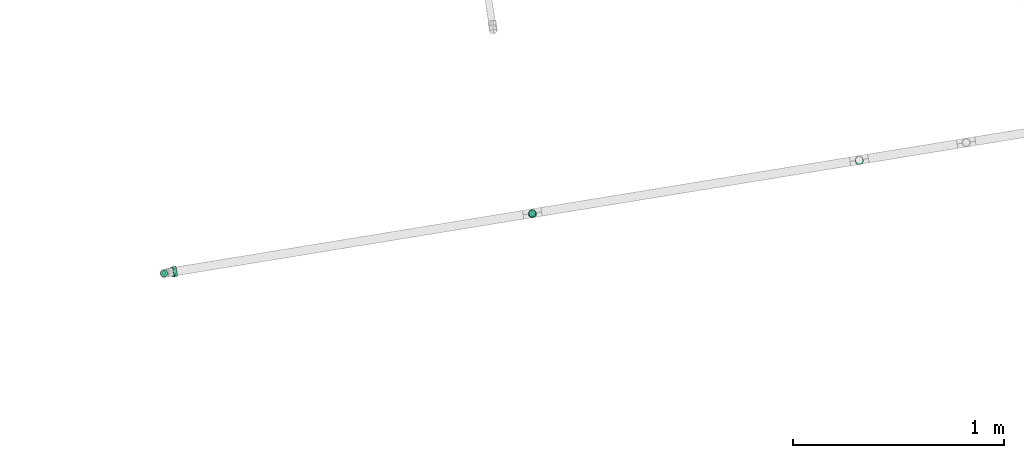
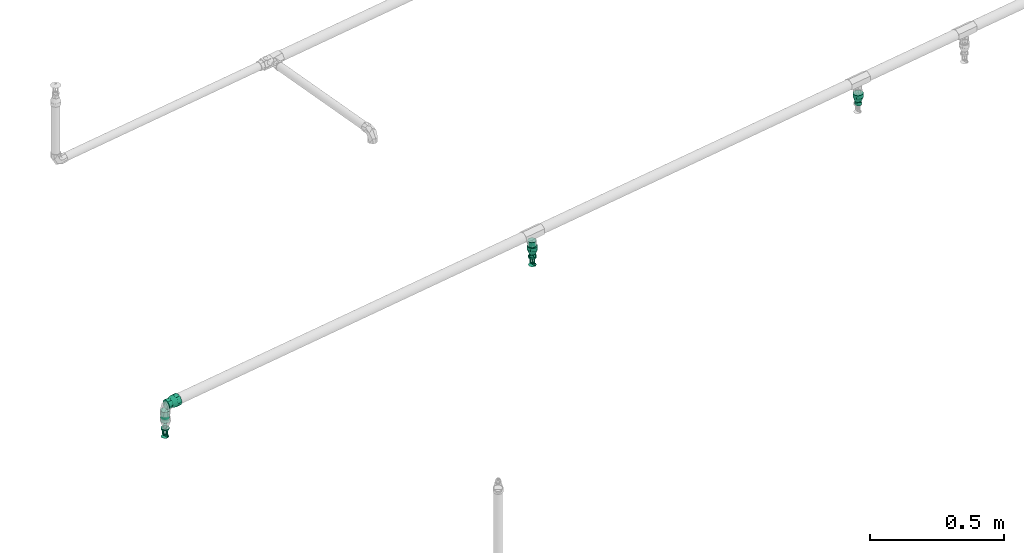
# One storey, part 28 of 46: 3 flow fittings, 2 flow segments, 2 flow terminals.
"""IFC2X3 building model written with IfcOpenShell, lengths in millimetres."""

from ifc_helpers import new_model, entity, si_unit, converted_unit, derived_unit, direction, frame, origin, origin_with_axes, origin_2d_with_axis, place, context, subcontext, project, spatial, circle, extrude, faceted_brep, source, transform, mapped, material, type_object, element, save


model = new_model("IFC2X3")

# Units and contexts
model_context = context("Model", 3, precision=0.01, world=origin(), true_north=direction((6.12323399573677e-17, 1.0)))
plan_context = context("Plan", 3, precision=1e-05, world=origin_with_axes())
body_context = subcontext(model_context, "Body", "Model", "MODEL_VIEW")
ifc_project = project(units=[converted_unit("PLANEANGLEUNIT", "DEGREE", entity("IfcPositiveLengthMeasure", 0.0174532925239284), si_unit("PLANEANGLEUNIT", "RADIAN"), dimensions=[0, 0, 0, 0, 0, 0, 0]), si_unit("AREAUNIT", "SQUARE_METRE"), si_unit("LENGTHUNIT", "METRE", prefix="MILLI"), si_unit("MASSUNIT", "GRAM", prefix="KILO"), si_unit("POWERUNIT", "WATT"), si_unit("PRESSUREUNIT", "PASCAL", prefix="KILO"), si_unit("FORCEUNIT", "NEWTON", prefix="KILO"), si_unit("ELECTRICVOLTAGEUNIT", "VOLT"), si_unit("ELECTRICCURRENTUNIT", "AMPERE"), si_unit("THERMODYNAMICTEMPERATUREUNIT", "DEGREE_CELSIUS"), si_unit("TIMEUNIT", "SECOND"), si_unit("VOLUMEUNIT", "CUBIC_METRE"), derived_unit("LINEARVELOCITYUNIT", [(si_unit("LENGTHUNIT", "METRE"), 1), (si_unit("TIMEUNIT", "SECOND"), -1)]), derived_unit("VOLUMETRICFLOWRATEUNIT", [(si_unit("VOLUMEUNIT", "CUBIC_METRE"), 1), (si_unit("TIMEUNIT", "SECOND"), -1)]), derived_unit("THERMALTRANSMITTANCEUNIT", [(si_unit("POWERUNIT", "WATT"), 1), (si_unit("THERMODYNAMICTEMPERATUREUNIT", "KELVIN"), -1), (si_unit("AREAUNIT", "SQUARE_METRE"), -1)]), derived_unit("SOUNDPRESSUREUNIT", [(si_unit("PRESSUREUNIT", "PASCAL"), 1)])], contexts=[model_context, plan_context])

# Site, building, storey
site_placement = place(None, frame((-3.09682673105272e-06, 1.93776733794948e-05, 0.0), z_axis=(0.0, 0.0, 1.0), x_axis=(-0.160806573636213, 0.986985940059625, 0.0)))
site = spatial("IfcSite", under=ifc_project, at=site_placement, Name="Default", CompositionType="ELEMENT")
building_placement = place(site_placement, frame((0.0, 0.0, 0.0), z_axis=(0.0, 0.0, 1.0), x_axis=(1.0, -2.77555756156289e-17, 0.0)))
building = spatial("IfcBuilding", under=site, at=building_placement, Name="Bygning (endres i Project Information)", CompositionType="ELEMENT")
storey_placement = place(building_placement, frame((0.0, 0.0, 51360.0000000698), z_axis=(0.0, 0.0, 1.0), x_axis=(1.0, -2.77555756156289e-17, 0.0)))
storey = spatial("IfcBuildingStorey", under=building, at=storey_placement, Name="H01-Nivå D+0,36", CompositionType="ELEMENT", Elevation=51360.0000000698)

# Flow fittings
ifc_material = material(Name="3320.001")
pipe_fitting_type_1 = type_object("IfcPipeFittingType", Name="RS_53_PIF_UN_Reducing-Socket-EN10241_MC_gen:RS_53_PIF_UN_Reducing-Socket-EN10241_MC_gen", PredefinedType="NOTDEFINED", material=ifc_material)
shared_shape_1 = source(origin(), body_context, "Body", "Brep", [
    faceted_brep([(0.0, 5.11167614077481, 19.0770350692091), (0.0, 9.87500000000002, 17.1040017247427), (0.0, 13.9653589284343, 13.9653589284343), (0.0, 17.1040017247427, 9.87499999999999), (0.0, 19.0770350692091, 5.11167614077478), (0.0, 19.75, 0.0), (0.0, 19.0770350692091, -5.1116761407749), (0.0, 17.1040017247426, -9.8750000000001), (0.0, 13.9653589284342, -13.9653589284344), (0.0, 9.87499999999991, -17.1040017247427), (0.0, 5.11167614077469, -19.0770350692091), (0.0, 0.0, -19.75), (0.0, -5.11167614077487, -19.0770350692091), (0.0, -9.87500000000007, -17.1040017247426), (0.0, -13.9653589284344, -13.9653589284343), (0.0, -17.1040017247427, -9.87499999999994), (0.0, -19.0770350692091, -5.11167614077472), (0.0, -19.75, 0.0), (0.0, -19.0770350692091, 5.11167614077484), (0.0, -17.1040017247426, 9.87500000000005), (0.0, -13.9653589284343, 13.9653589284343), (0.0, -9.87499999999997, 17.1040017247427), (0.0, -5.11167614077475, 19.0770350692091), (0.0, 0.0, 19.75), (17.0, -6.65118285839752, -18.277344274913), (17.0, -15.1289479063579, -12.6955675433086), (17.0, -16.8438814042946, -9.72538978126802), (17.0, -18.5588149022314, -6.7552120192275), (17.0, -9.87413131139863, -17.1045032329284), (17.0, -12.5015396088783, -14.9000353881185), (17.0, -19.1544074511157, -3.37760600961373), (17.0, -3.42823440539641, -19.4501853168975), (17.0, 3.43119786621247, -19.4496627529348), (17.0, 0.0014817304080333, -19.4499240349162), (17.0, -19.75, 0.0), (17.0, 6.65396758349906, -18.2763306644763), (17.0, 9.87673730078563, -17.1029985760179), (17.0, 18.5598439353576, -6.75238425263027), (17.0, 16.8453630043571, -9.7228232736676), (17.0, 15.1308820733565, -12.6932622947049), (17.0, 12.5038096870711, -14.8981304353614), (17.0, 19.75, 0.0), (17.0, 15.1308820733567, 12.6932622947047), (17.0, 16.8453630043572, 9.72282327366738), (17.0, 18.5598439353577, 6.75238425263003), (17.0, 9.87673730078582, 17.1029985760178), (17.0, 12.5038096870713, 14.8981304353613), (17.0, 3.43119786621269, 19.4496627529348), (17.0, 6.65396758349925, 18.2763306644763), (17.0, -3.4282344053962, 19.4501853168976), (17.0, 0.00148173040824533, 19.4499240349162), (17.0, -15.1289479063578, 12.6955675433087), (17.0, -6.65118285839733, 18.277344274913), (17.0, -9.87413131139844, 17.1045032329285), (17.0, -12.5015396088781, 14.9000353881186), (17.0, -19.1544074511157, 3.37760600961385), (17.0, -18.5588149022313, 6.75521201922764), (17.0, -16.8438814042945, 9.72538978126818), (34.0, 13.5000000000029, 0.0), (34.0, 12.6868795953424, -4.61444320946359), (34.0, -4.54589529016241, -12.4935366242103), (34.0, -2.34276817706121, -13.2951659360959), (34.0, 6.75195505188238, -11.6902139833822), (34.0, 0.00166747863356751, -13.2948718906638), (34.0, 2.34610313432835, -13.2945778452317), (34.0, 10.3432928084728, -8.67561489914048), (34.0, 8.54762393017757, -10.1829144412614), (34.0, 4.54902909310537, -12.492395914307), (34.0, 11.5150862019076, -6.64502905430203), (34.0, -6.74902240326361, -11.6919073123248), (34.0, -13.4999999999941, 0.0), (34.0, -13.0928608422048, -2.30881275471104), (34.0, -10.3411162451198, -8.6782091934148), (34.0, -8.54506932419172, -10.1850582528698), (34.0, -12.6857216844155, -4.61762550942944), (34.0, -11.5134189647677, -6.64791735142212), (34.0, -13.0928608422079, 2.30881275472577), (34.0, -12.6857216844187, 4.6176255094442), (34.0, 2.34610313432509, 13.2945778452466), (34.0, 4.54902909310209, 12.4923959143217), (34.0, -10.3411162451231, 8.67820919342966), (34.0, 0.00166747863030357, 13.2948718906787), (34.0, -6.74902240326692, 11.6919073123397), (34.0, -8.54506932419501, 10.1850582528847), (34.0, -11.5134189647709, 6.64791735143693), (34.0, -2.34276817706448, 13.2951659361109), (34.0, -4.5458952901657, 12.4935366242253), (34.0, 12.6868795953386, 4.61444320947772), (34.0, 11.5150862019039, 6.64502905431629), (34.0, 10.3432928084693, 8.67561489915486), (34.0, 6.7519550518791, 11.6902139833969), (34.0, 8.54762393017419, 10.1829144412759), (51.0, 3.49405710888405, -13.0399986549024), (51.0, 6.75000000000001, -11.6913429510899), (51.0, 9.5459415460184, -9.54594154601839), (51.0, 11.6913429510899, -6.74999999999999), (51.0, 13.0399986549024, -3.49405710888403), (51.0, 13.5, 0.0), (51.0, 13.0399986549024, 3.49405710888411), (51.0, 11.6913429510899, 6.75000000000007), (51.0, 9.54594154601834, 9.54594154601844), (51.0, 6.74999999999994, 11.69134295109), (51.0, 3.49405710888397, 13.0399986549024), (51.0, 0.0, 13.5), (51.0, -3.49405710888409, 13.0399986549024), (51.0, -6.75000000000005, 11.6913429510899), (51.0, -9.54594154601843, 9.54594154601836), (51.0, -11.6913429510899, 6.74999999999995), (51.0, -13.0399986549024, 3.49405710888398), (51.0, -13.5, 0.0), (51.0, -13.0399986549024, -3.49405710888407), (51.0, -11.6913429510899, -6.75000000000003), (51.0, -9.54594154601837, -9.54594154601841), (51.0, -6.74999999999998, -11.6913429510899), (51.0, -3.49405710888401, -13.0399986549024), (51.0, 0.0, -13.5)], [[[0, 1, 2, 3, 4, 5, 6, 7, 8, 9, 10, 11, 12, 13, 14, 15, 16, 17, 18, 19, 20, 21, 22, 23]], [[24, 13, 12]], [[15, 14, 25]], [[15, 25, 26, 27]], [[28, 29, 13]], [[16, 27, 30]], [[30, 17, 16]], [[15, 27, 16]], [[12, 31, 24]], [[25, 14, 29]], [[11, 32, 33, 31]], [[24, 28, 13]], [[13, 29, 14]], [[30, 34, 17]], [[32, 11, 10]], [[35, 9, 36]], [[7, 37, 38, 39]], [[9, 35, 10]], [[7, 6, 37]], [[8, 39, 40]], [[32, 10, 35]], [[7, 39, 8]], [[40, 36, 9]], [[6, 41, 37]], [[6, 5, 41]], [[11, 31, 12]], [[40, 9, 8]], [[41, 5, 4]], [[3, 2, 42]], [[3, 42, 43, 44]], [[45, 46, 1]], [[44, 41, 4]], [[0, 47, 48]], [[42, 2, 46]], [[23, 49, 50, 47]], [[1, 46, 2]], [[49, 23, 22]], [[19, 51, 20]], [[52, 21, 53]], [[3, 44, 4]], [[48, 45, 1]], [[54, 53, 21]], [[17, 34, 55]], [[21, 52, 22]], [[20, 51, 54]], [[49, 22, 52]], [[48, 1, 0]], [[17, 55, 18]], [[56, 19, 18]], [[18, 55, 56]], [[54, 21, 20]], [[57, 51, 19, 56]], [[23, 47, 0]], [[41, 58, 59]], [[60, 31, 61]], [[40, 62, 36]], [[63, 32, 64]], [[65, 39, 38]], [[64, 32, 35]], [[61, 33, 63]], [[37, 41, 59]], [[62, 40, 66]], [[40, 39, 66]], [[35, 36, 67]], [[65, 38, 68]], [[37, 68, 38]], [[64, 35, 67]], [[61, 31, 33]], [[69, 28, 24]], [[69, 24, 60]], [[70, 30, 71]], [[72, 29, 73]], [[30, 70, 34]], [[74, 27, 26]], [[68, 37, 59]], [[72, 25, 29]], [[27, 74, 71]], [[31, 60, 24]], [[29, 28, 73]], [[75, 26, 25]], [[67, 36, 62]], [[66, 39, 65]], [[27, 71, 30]], [[74, 26, 75]], [[73, 28, 69]], [[63, 33, 32]], [[75, 25, 72]], [[56, 76, 77]], [[48, 78, 79]], [[54, 51, 80]], [[81, 47, 50]], [[57, 56, 77]], [[52, 53, 82]], [[82, 53, 83]], [[55, 70, 76]], [[70, 55, 34]], [[84, 51, 57]], [[50, 85, 81]], [[56, 55, 76]], [[86, 49, 52]], [[83, 53, 54]], [[81, 78, 47]], [[48, 47, 78]], [[80, 51, 84]], [[49, 85, 50]], [[87, 44, 88]], [[87, 58, 41]], [[43, 42, 89]], [[57, 77, 84]], [[46, 45, 90]], [[85, 49, 86]], [[88, 44, 43]], [[54, 80, 83]], [[91, 42, 46]], [[52, 82, 86]], [[89, 42, 91]], [[87, 41, 44]], [[90, 45, 79]], [[46, 90, 91]], [[79, 45, 48]], [[43, 89, 88]], [[92, 93, 94, 95, 96, 97, 98, 99, 100, 101, 102, 103, 104, 105, 106, 107, 108, 109, 110, 111, 112, 113, 114, 115]], [[58, 97, 96]], [[95, 94, 65]], [[95, 65, 68, 59]], [[62, 66, 93]], [[59, 58, 96]], [[92, 64, 67]], [[65, 94, 66]], [[115, 61, 63, 64]], [[93, 66, 94]], [[67, 93, 92]], [[67, 62, 93]], [[95, 59, 96]], [[114, 61, 115]], [[111, 110, 74]], [[73, 113, 112]], [[109, 71, 110]], [[111, 74, 75, 72]], [[109, 70, 71]], [[60, 61, 114]], [[113, 69, 60]], [[111, 72, 112]], [[113, 60, 114]], [[112, 72, 73]], [[115, 64, 92]], [[71, 74, 110]], [[73, 69, 113]], [[86, 105, 104]], [[107, 106, 80]], [[107, 80, 84, 77]], [[82, 83, 105]], [[108, 77, 76]], [[76, 70, 109]], [[76, 109, 108]], [[104, 85, 86]], [[80, 106, 83]], [[103, 78, 81, 85]], [[91, 101, 100]], [[105, 83, 106]], [[86, 82, 105]], [[78, 103, 102]], [[79, 101, 90]], [[99, 87, 88, 89]], [[101, 79, 102]], [[99, 98, 87]], [[100, 89, 91]], [[78, 102, 79]], [[103, 85, 104]], [[99, 89, 100]], [[98, 58, 87]], [[107, 77, 108]], [[98, 97, 58]], [[91, 90, 101]]]),
])
for number, where, z_axis, x_axis in (
    (1, (1002297.38520526, -344152.032953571, 3404.0), (2.77555756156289e-17, 1.0, 0.0), (0.0, 0.0, -1.0)),
    (2, (1002297.38520526, -345724.575122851, 3404.0), (2.77555756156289e-17, 1.0, 0.0), (0.0, 0.0, -1.0)),
):
    element("IfcFlowFitting", number, at=place(storey_placement, frame(where, z_axis=z_axis, x_axis=x_axis)), inside=storey, type_object=pipe_fitting_type_1, material=ifc_material, Name="RS_53_PIF_UN_Reducing-Socket-EN10241_MC_gen:RS_53_PIF_UN_Reducing-Socket-EN10241_MC_gen", ObjectType="RS_53_PIF_UN_Reducing-Socket-EN10241_MC_gen:RS_53_PIF_UN_Reducing-Socket-EN10241_MC_gen", context=body_context, shape_type="MappedRepresentation", body=[
        mapped(shared_shape_1, transform((0.0, 0.0, 0.0), scale=1.0)),
    ])
pipe_fitting_type_2 = type_object("IfcPipeFittingType", Name="RS_53_PIF_UN_Reducing-Socket-EN10241_MC_gen:RS_53_PIF_UN_Reducing-Socket-EN10241_MC_gen", PredefinedType="NOTDEFINED", material=ifc_material)
shared_shape_2 = source(origin(), body_context, "Body", "Brep", [
    faceted_brep([(0.0, 5.11167614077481, 19.0770350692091), (0.0, 9.87500000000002, 17.1040017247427), (0.0, 13.9653589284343, 13.9653589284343), (0.0, 17.1040017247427, 9.87499999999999), (0.0, 19.0770350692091, 5.11167614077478), (0.0, 19.75, 0.0), (0.0, 19.0770350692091, -5.1116761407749), (0.0, 17.1040017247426, -9.8750000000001), (0.0, 13.9653589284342, -13.9653589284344), (0.0, 9.87499999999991, -17.1040017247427), (0.0, 5.11167614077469, -19.0770350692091), (0.0, 0.0, -19.75), (0.0, -5.11167614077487, -19.0770350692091), (0.0, -9.87500000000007, -17.1040017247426), (0.0, -13.9653589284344, -13.9653589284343), (0.0, -17.1040017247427, -9.87499999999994), (0.0, -19.0770350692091, -5.11167614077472), (0.0, -19.75, 0.0), (0.0, -19.0770350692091, 5.11167614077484), (0.0, -17.1040017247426, 9.87500000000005), (0.0, -13.9653589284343, 13.9653589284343), (0.0, -9.87499999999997, 17.1040017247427), (0.0, -5.11167614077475, 19.0770350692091), (0.0, 0.0, 19.75), (18.6666666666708, -6.65147917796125, -18.2772448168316), (18.6666666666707, -15.1290644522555, -12.6954286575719), (18.6666666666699, -16.8439551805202, -9.72527774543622), (18.6666666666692, -18.5588459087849, -6.75512683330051), (18.6666666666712, -9.87436684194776, -17.1043672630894), (18.6666666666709, -12.5017156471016, -14.8998979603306), (18.6666666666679, -19.1544229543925, -3.37756341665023), (18.6666666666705, -3.42859151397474, -19.4501223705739), (18.6666666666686, 3.43075149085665, -19.4497414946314), (18.6666666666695, 0.00107998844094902, -19.4499319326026), (18.6666666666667, -19.75, 0.0), (18.6666666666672, 6.65350888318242, -18.2765060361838), (18.6666666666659, 9.87626627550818, -17.1032705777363), (18.6666666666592, 18.5595959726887, -6.75306577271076), (18.6666666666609, 16.8450350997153, -9.72340711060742), (18.6666666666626, 15.1304742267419, -12.6937484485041), (18.6666666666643, 12.503370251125, -14.8985095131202), (18.6666666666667, 19.75, 0.0), (18.6666666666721, 15.1304742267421, 12.6937484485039), (18.6666666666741, 16.8450350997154, 9.72340711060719), (18.6666666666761, 18.5595959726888, 6.7530657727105), (18.6666666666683, 9.8762662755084, 17.1032705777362), (18.6666666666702, 12.5033702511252, 14.89850951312), (18.6666666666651, 3.43075149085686, 19.4497414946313), (18.6666666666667, 6.65350888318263, 18.2765060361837), (18.6666666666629, -3.42859151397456, 19.450122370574), (18.666666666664, 0.00107998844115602, 19.4499319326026), (18.6666666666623, -12.5017156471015, 14.8998979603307), (18.6666666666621, -9.87436684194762, 17.1043672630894), (18.6666666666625, -6.65147917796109, 18.2772448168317), (18.6666666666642, -18.5588459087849, 6.75512683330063), (18.6666666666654, -19.1544229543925, 3.37756341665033), (18.6666666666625, -15.1290644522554, 12.695428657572), (18.6666666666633, -16.8439551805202, 9.72527774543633), (37.3333333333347, -23.7125607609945, -4.46565710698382), (37.3333333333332, 4.25560674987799, -24.127573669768), (37.3333333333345, 0.00110376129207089, -24.1277682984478), (37.3333333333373, -15.5085607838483, -18.483337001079), (37.3333333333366, -20.8950763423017, -12.0642027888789), (37.3333333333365, -8.25137606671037, -22.6729794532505), (37.3333333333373, -12.2493529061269, -21.2179959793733), (37.3333333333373, -18.7677686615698, -15.7486780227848), (37.3333333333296, 12.2512941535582, -21.2168751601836), (37.3333333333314, 8.2534504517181, -22.6722244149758), (37.3333333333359, -23.0223840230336, -8.37972755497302), (37.3333333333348, -23.7611920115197, -4.18986377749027), (37.3333333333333, -24.4999999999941, 0.0), (37.3333333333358, -4.25339922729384, -24.1279629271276), (37.3333333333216, 23.0231506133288, -8.37762113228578), (37.3333333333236, 20.8961800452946, -12.0622909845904), (37.3333333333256, 18.7692094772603, -15.7469608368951), (37.3333333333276, 15.5102518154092, -18.4819179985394), (37.3333333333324, 24.5000000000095, 0.0), (37.3333333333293, -18.767768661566, 15.7486780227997), (37.3333333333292, -15.5085607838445, 18.4833370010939), (37.3333333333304, -4.25339922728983, 24.1279629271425), (37.3333333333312, -23.0223840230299, 8.37972755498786), (37.3333333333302, -20.8950763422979, 12.0642027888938), (37.3333333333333, 4.2556067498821, 24.1275736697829), (37.3333333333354, 8.25345045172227, 22.6722244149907), (37.3333333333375, 12.2512941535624, 21.2168751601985), (37.3333333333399, 15.5102518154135, 18.4819179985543), (37.3333333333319, -23.7611920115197, 4.18986377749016), (37.3333333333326, -23.7125607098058, 4.46565739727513), (37.3333333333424, 18.7692094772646, 15.74696083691), (37.3333333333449, 20.896180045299, 12.0622909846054), (37.3333333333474, 23.0231506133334, 8.37762113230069), (37.3333333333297, -8.25137606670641, 22.6729794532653), (37.333333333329, -12.249352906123, 21.2179959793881), (37.3333333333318, 0.00110376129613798, 24.1277682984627), (56.0, 0.0, -24.5), (56.0, 6.34106660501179, -23.6651827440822), (56.0, 12.25, -21.2176223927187), (56.0, 17.3241161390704, -17.3241161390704), (56.0, 21.2176223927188, -12.25), (56.0, 23.6651827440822, -6.34106660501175), (56.0, 24.5, 0.0), (56.0, 23.6651827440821, 6.34106660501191), (56.0, 21.2176223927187, 12.2500000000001), (56.0, 17.3241161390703, 17.3241161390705), (56.0, 12.2499999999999, 21.2176223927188), (56.0, 6.34106660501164, 23.6651827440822), (56.0, 0.0, 24.5), (56.0, -6.34106660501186, 23.6651827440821), (56.0, -12.2500000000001, 21.2176223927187), (56.0, -17.3241161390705, 17.3241161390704), (56.0, -21.2176223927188, 12.2499999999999), (56.0, -23.6651827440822, 6.34106660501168), (56.0, -24.5, 0.0), (56.0, -23.6651827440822, -6.34106660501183), (56.0, -21.2176223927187, -12.2500000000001), (56.0, -17.3241161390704, -17.3241161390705), (56.0, -12.25, -21.2176223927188), (56.0, -6.34106660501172, -23.6651827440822)], [[[0, 1, 2, 3, 4, 5, 6, 7, 8, 9, 10, 11, 12, 13, 14, 15, 16, 17, 18, 19, 20, 21, 22, 23]], [[24, 13, 12]], [[15, 14, 25]], [[15, 25, 26, 27]], [[28, 29, 13]], [[16, 27, 30]], [[30, 17, 16]], [[15, 27, 16]], [[12, 31, 24]], [[25, 14, 29]], [[11, 32, 33, 31]], [[24, 28, 13]], [[13, 29, 14]], [[30, 34, 17]], [[32, 11, 10]], [[35, 9, 36]], [[7, 37, 38, 39]], [[9, 35, 10]], [[7, 6, 37]], [[8, 39, 40]], [[32, 10, 35]], [[7, 39, 8]], [[40, 36, 9]], [[6, 41, 37]], [[6, 5, 41]], [[11, 31, 12]], [[40, 9, 8]], [[41, 5, 4]], [[3, 2, 42]], [[3, 42, 43, 44]], [[45, 46, 1]], [[44, 41, 4]], [[0, 47, 48]], [[42, 2, 46]], [[23, 49, 50, 47]], [[1, 46, 2]], [[23, 22, 49]], [[51, 52, 21]], [[48, 1, 0]], [[21, 52, 53]], [[19, 18, 54]], [[21, 53, 22]], [[23, 47, 0]], [[3, 44, 4]], [[55, 17, 34]], [[53, 49, 22]], [[19, 56, 20]], [[20, 56, 51]], [[51, 21, 20]], [[19, 54, 57, 56]], [[17, 55, 18]], [[48, 45, 1]], [[55, 54, 18]], [[27, 58, 30]], [[33, 59, 60]], [[61, 25, 29]], [[62, 27, 26]], [[28, 63, 64]], [[25, 61, 65]], [[35, 66, 67]], [[27, 62, 68]], [[36, 66, 35]], [[30, 58, 69, 70]], [[26, 65, 62]], [[29, 64, 61]], [[29, 28, 64]], [[26, 25, 65]], [[24, 71, 63]], [[60, 71, 31]], [[59, 33, 32]], [[67, 59, 32]], [[37, 72, 38]], [[73, 74, 39]], [[75, 36, 40]], [[75, 66, 36]], [[76, 37, 41]], [[27, 68, 58]], [[38, 72, 73]], [[63, 28, 24]], [[40, 74, 75]], [[76, 72, 37]], [[30, 70, 34]], [[67, 32, 35]], [[24, 31, 71]], [[73, 39, 38]], [[60, 31, 33]], [[39, 74, 40]], [[41, 44, 76]], [[56, 77, 78]], [[79, 49, 53]], [[54, 80, 81]], [[47, 82, 83]], [[45, 84, 85]], [[55, 70, 86, 87]], [[42, 88, 89]], [[87, 54, 55]], [[76, 44, 90]], [[43, 89, 90]], [[85, 88, 46]], [[52, 91, 53]], [[77, 57, 81]], [[48, 83, 84]], [[92, 51, 78]], [[49, 79, 93]], [[92, 91, 52]], [[48, 84, 45]], [[57, 54, 81]], [[50, 82, 47]], [[51, 56, 78]], [[70, 55, 34]], [[45, 85, 46]], [[53, 91, 79]], [[42, 89, 43]], [[57, 77, 56]], [[54, 87, 80]], [[47, 83, 48]], [[92, 52, 51]], [[49, 93, 50]], [[43, 90, 44]], [[50, 93, 82]], [[46, 88, 42]], [[94, 95, 96, 97, 98, 99, 100, 101, 102, 103, 104, 105, 106, 107, 108, 109, 110, 111, 112, 113, 114, 115, 116, 117]], [[76, 100, 99]], [[98, 97, 74]], [[98, 74, 73, 72]], [[66, 75, 96]], [[72, 76, 99]], [[95, 59, 67]], [[74, 97, 75]], [[94, 71, 60, 59]], [[96, 75, 97]], [[71, 94, 117]], [[94, 59, 95]], [[112, 69, 113]], [[63, 116, 64]], [[67, 96, 95]], [[61, 116, 115]], [[70, 69, 112]], [[98, 72, 99]], [[116, 63, 117]], [[115, 65, 61]], [[71, 117, 63]], [[67, 66, 96]], [[114, 65, 115]], [[68, 114, 113]], [[113, 69, 58, 68]], [[61, 64, 116]], [[62, 65, 114, 68]], [[91, 108, 107]], [[110, 109, 77]], [[110, 77, 81, 80]], [[92, 78, 108]], [[111, 80, 87, 86]], [[86, 112, 111]], [[110, 80, 111]], [[107, 79, 91]], [[77, 109, 78]], [[106, 82, 93, 79]], [[91, 92, 108]], [[108, 78, 109]], [[86, 70, 112]], [[82, 106, 105]], [[83, 104, 84]], [[102, 90, 89, 88]], [[104, 83, 105]], [[102, 101, 90]], [[103, 88, 85]], [[82, 105, 83]], [[102, 88, 103]], [[85, 84, 104]], [[101, 76, 90]], [[101, 100, 76]], [[106, 79, 107]], [[85, 104, 103]]]),
])
flow_fitting_placement = place(storey_placement, frame((1002299.88520526, -342386.296251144, 3458.79749047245), z_axis=(4.03772584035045e-23, 1.45474404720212e-06, 0.999999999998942), x_axis=(-2.77555756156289e-17, -0.999999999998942, 1.45474404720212e-06)))
element("IfcFlowFitting", 3, at=flow_fitting_placement, inside=storey, type_object=pipe_fitting_type_2, material=ifc_material, Name="RS_53_PIF_UN_Reducing-Socket-EN10241_MC_gen:RS_53_PIF_UN_Reducing-Socket-EN10241_MC_gen", ObjectType="RS_53_PIF_UN_Reducing-Socket-EN10241_MC_gen:RS_53_PIF_UN_Reducing-Socket-EN10241_MC_gen", context=body_context, shape_type="MappedRepresentation", body=[
    mapped(shared_shape_2, transform((0.0, 0.0, 0.0), scale=1.0)),
])

# Flow terminals
fire_suppression_terminal_type = type_object("IfcFireSuppressionTerminalType", Name="SSP K80 HIMLING:SP-15-K80-68DGR-RS", PredefinedType="NOTDEFINED", material=ifc_material)
shared_shape_3 = source(origin(), body_context, "Body", "Brep", [
    faceted_brep([(-2.5, 0.0, 57.0), (0.0, -2.5, 57.0), (2.5, 0.0, 57.0), (0.0, 2.5, 57.0), (0.0, 2.5, 53.0), (2.5, 0.0, 53.0), (0.0, -2.5, 53.0), (-2.5, 0.0, 53.0)], [[[0, 1, 2, 3]], [[4, 5, 6, 7]], [[3, 4, 7, 0]], [[2, 5, 4, 3]], [[1, 6, 5, 2]], [[0, 7, 6, 1]]]),
    faceted_brep([(1.0, 15.5, 51.0), (1.0, -15.5, 51.0), (1.0, -15.5, 19.0), (1.0, -10.5, 19.0), (1.0, -10.5, 45.0), (1.0, 10.5, 45.0), (1.0, 10.5, 19.0), (1.0, 15.5, 19.0), (-1.0, 15.5, 51.0), (-1.0, 15.5, 19.0), (-1.0, 10.5, 19.0), (-1.0, 10.5, 45.0), (-1.0, -10.5, 45.0), (-1.0, -10.5, 19.0), (-1.0, -15.5, 19.0), (-1.0, -15.5, 51.0)], [[[0, 1, 2, 3, 4, 5, 6, 7]], [[8, 9, 10, 11, 12, 13, 14, 15]], [[7, 9, 8, 0]], [[6, 10, 9, 7]], [[5, 11, 10, 6]], [[4, 12, 11, 5]], [[3, 13, 12, 4]], [[2, 14, 13, 3]], [[1, 15, 14, 2]], [[0, 8, 15, 1]]]),
    faceted_brep([(-8.5, -1.0, 45.0), (-8.5, -1.0, 19.0), (-5.5, -1.0, 19.0), (-5.5, -1.0, 42.0), (5.5, -1.0, 42.0), (5.5, -1.0, 19.0), (8.5, -1.0, 19.0), (8.5, -1.0, 45.0), (-8.5, 1.0, 45.0), (8.5, 1.0, 45.0), (8.5, 1.0, 19.0), (5.5, 1.0, 19.0), (5.5, 1.0, 42.0), (-5.5, 1.0, 42.0), (-5.5, 1.0, 19.0), (-8.5, 1.0, 19.0)], [[[0, 1, 2, 3, 4, 5, 6, 7]], [[8, 9, 10, 11, 12, 13, 14, 15]], [[7, 9, 8, 0]], [[6, 10, 9, 7]], [[5, 11, 10, 6]], [[4, 12, 11, 5]], [[3, 13, 12, 4]], [[2, 14, 13, 3]], [[1, 15, 14, 2]], [[0, 8, 15, 1]]]),
    faceted_brep([(16.0, 0.0, 53.0), (11.3137084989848, 11.3137084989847, 53.0), (0.0, 16.0, 53.0), (-11.3137084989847, 11.3137084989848, 53.0), (-16.0, 0.0, 53.0), (-11.3137084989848, -11.3137084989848, 53.0), (0.0, -16.0, 53.0), (11.3137084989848, -11.3137084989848, 53.0), (2.5, 0.0, 51.0), (0.0, -2.5, 51.0), (-2.5, 0.0, 51.0), (0.0, 2.5, 51.0)], [[[0, 1, 2, 3, 4, 5, 6, 7]], [[8, 9, 10, 11]], [[2, 11, 3]], [[10, 3, 11]], [[10, 4, 3]], [[1, 8, 11]], [[8, 1, 0]], [[2, 1, 11]], [[6, 9, 7]], [[8, 7, 9]], [[8, 0, 7]], [[5, 10, 9]], [[10, 5, 4]], [[6, 5, 9]]]),
    faceted_brep([(11.3137084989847, 11.3137084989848, 19.0), (8.0, 13.8564064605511, 19.0), (4.14110472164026, 15.4548132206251, 19.0), (0.0, 16.0, 19.0), (-4.1411047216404, 15.4548132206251, 19.0), (-8.0, 13.856406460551, 19.0), (-11.3137084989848, 11.3137084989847, 19.0), (-13.8564064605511, 8.0, 19.0), (-15.4548132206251, 4.14110472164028, 19.0), (-16.0, 0.0, 19.0), (-15.4548132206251, -4.14110472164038, 19.0), (-13.856406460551, -8.0, 19.0), (-11.3137084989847, -11.3137084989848, 19.0), (-8.0, -13.856406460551, 19.0), (-4.14110472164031, -15.4548132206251, 19.0), (0.0, -16.0, 19.0), (4.14110472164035, -15.4548132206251, 19.0), (8.0, -13.856406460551, 19.0), (11.3137084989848, -11.3137084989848, 19.0), (13.856406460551, -8.0, 19.0), (15.4548132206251, -4.14110472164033, 19.0), (16.0, 0.0, 19.0), (15.4548132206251, 4.14110472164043, 19.0), (13.856406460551, 8.0, 19.0), (0.0, -16.0, 13.0), (-4.14110472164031, -15.4548132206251, 13.0), (-8.0, -13.856406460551, 13.0), (-11.3137084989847, -11.3137084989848, 13.0), (-13.856406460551, -8.0, 13.0), (-15.4548132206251, -4.14110472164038, 13.0), (-16.0, 0.0, 13.0), (-15.4548132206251, 4.14110472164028, 13.0), (-13.8564064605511, 8.0, 13.0), (-11.3137084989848, 11.3137084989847, 13.0), (-8.0, 13.856406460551, 13.0), (-4.1411047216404, 15.4548132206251, 13.0), (0.0, 16.0, 13.0), (4.14110472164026, 15.4548132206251, 13.0), (8.0, 13.8564064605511, 13.0), (11.3137084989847, 11.3137084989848, 13.0), (13.856406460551, 8.0, 13.0), (15.4548132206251, 4.14110472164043, 13.0), (16.0, 0.0, 13.0), (15.4548132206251, -4.14110472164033, 13.0), (13.856406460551, -8.0, 13.0), (11.3137084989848, -11.3137084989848, 13.0), (8.0, -13.856406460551, 13.0), (4.14110472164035, -15.4548132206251, 13.0)], [[[0, 1, 2, 3, 4, 5, 6, 7, 8, 9, 10, 11, 12, 13, 14, 15, 16, 17, 18, 19, 20, 21, 22, 23]], [[24, 25, 26, 27, 28, 29, 30, 31, 32, 33, 34, 35, 36, 37, 38, 39, 40, 41, 42, 43, 44, 45, 46, 47]], [[30, 9, 8, 31]], [[31, 8, 7, 32]], [[34, 33, 6, 5]], [[6, 33, 32, 7]], [[35, 34, 5, 4]], [[35, 4, 3, 36]], [[36, 3, 2, 37]], [[37, 2, 1, 38]], [[40, 39, 0, 23]], [[0, 39, 38, 1]], [[41, 40, 23, 22]], [[41, 22, 21, 42]], [[42, 21, 20, 43]], [[43, 20, 19, 44]], [[46, 45, 18, 17]], [[18, 45, 44, 19]], [[47, 46, 17, 16]], [[47, 16, 15, 24]], [[24, 15, 14, 25]], [[25, 14, 13, 26]], [[28, 27, 12, 11]], [[12, 27, 26, 13]], [[29, 28, 11, 10]], [[29, 10, 9, 30]]]),
    faceted_brep([(-2.5, 0.0, 51.0), (0.0, -2.5, 51.0), (2.5, 0.0, 51.0), (0.0, 2.5, 51.0), (0.0, 2.5, 19.0), (2.5, 0.0, 19.0), (0.0, -2.5, 19.0), (-2.5, 0.0, 19.0)], [[[0, 1, 2, 3]], [[4, 5, 6, 7]], [[3, 4, 7, 0]], [[2, 5, 4, 3]], [[1, 6, 5, 2]], [[0, 7, 6, 1]]]),
    faceted_brep([(3.75000000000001, 6.49519052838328, 13.0), (1.94114283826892, 7.24444369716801, 13.0), (0.0, 7.5, 13.0), (-1.94114283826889, 7.24444369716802, 13.0), (-3.74999999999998, 6.4951905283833, 13.0), (-5.30330085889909, 5.30330085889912, 13.0), (-6.49519052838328, 3.75000000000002, 13.0), (-7.244443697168, 1.94114283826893, 13.0), (-7.5, 0.0, 13.0), (-7.24444369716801, -1.94114283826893, 13.0), (-6.49519052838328, -3.75000000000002, 13.0), (-5.3033008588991, -5.30330085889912, 13.0), (-3.74999999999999, -6.4951905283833, 13.0), (-1.94114283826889, -7.24444369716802, 13.0), (0.0, -7.5, 13.0), (1.94114283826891, -7.24444369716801, 13.0), (3.75000000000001, -6.49519052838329, 13.0), (5.30330085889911, -5.3033008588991, 13.0), (6.49519052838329, -3.75, 13.0), (7.24444369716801, -1.9411428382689, 13.0), (7.5, 0.0, 13.0), (7.24444369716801, 1.9411428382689, 13.0), (6.49519052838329, 3.75, 13.0), (5.30330085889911, 5.3033008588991, 13.0), (5.30330085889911, -5.3033008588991, 0.0), (3.75000000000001, -6.49519052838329, 0.0), (1.94114283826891, -7.24444369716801, 0.0), (0.0, -7.5, 0.0), (-1.94114283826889, -7.24444369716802, 0.0), (-3.74999999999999, -6.4951905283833, 0.0), (-5.3033008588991, -5.30330085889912, 0.0), (-6.49519052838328, -3.75000000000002, 0.0), (-7.24444369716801, -1.94114283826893, 0.0), (-7.5, 0.0, 0.0), (-7.244443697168, 1.94114283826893, 0.0), (-6.49519052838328, 3.75000000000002, 0.0), (-5.30330085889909, 5.30330085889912, 0.0), (-3.74999999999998, 6.4951905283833, 0.0), (-1.94114283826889, 7.24444369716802, 0.0), (0.0, 7.5, 0.0), (1.94114283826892, 7.24444369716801, 0.0), (3.75000000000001, 6.49519052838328, 0.0), (5.30330085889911, 5.3033008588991, 0.0), (6.49519052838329, 3.75, 0.0), (7.24444369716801, 1.9411428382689, 0.0), (7.5, 0.0, 0.0), (7.24444369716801, -1.9411428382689, 0.0), (6.49519052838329, -3.75, 0.0)], [[[0, 1, 2, 3, 4, 5, 6, 7, 8, 9, 10, 11, 12, 13, 14, 15, 16, 17, 18, 19, 20, 21, 22, 23]], [[24, 25, 26, 27, 28, 29, 30, 31, 32, 33, 34, 35, 36, 37, 38, 39, 40, 41, 42, 43, 44, 45, 46, 47]], [[33, 8, 7, 34]], [[34, 7, 6, 35]], [[37, 36, 5, 4]], [[5, 36, 35, 6]], [[38, 37, 4, 3]], [[38, 3, 2, 39]], [[39, 2, 1, 40]], [[40, 1, 0, 41]], [[43, 42, 23, 22]], [[23, 42, 41, 0]], [[44, 43, 22, 21]], [[44, 21, 20, 45]], [[45, 20, 19, 46]], [[46, 19, 18, 47]], [[25, 24, 17, 16]], [[17, 24, 47, 18]], [[26, 25, 16, 15]], [[26, 15, 14, 27]], [[27, 14, 13, 28]], [[28, 13, 12, 29]], [[31, 30, 11, 10]], [[11, 30, 29, 12]], [[32, 31, 10, 9]], [[32, 9, 8, 33]]]),
])
for number, where, z_axis, x_axis in (
    (4, (1002299.88520526, -342381.062917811, 3370.0), (0.0, 0.0, -1.0), (2.77555756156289e-17, 1.0, 0.0)),
    (5, (1002297.38520526, -344152.032953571, 3370.0), (0.0, 0.0, -1.0), (2.77555756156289e-17, 1.0, 0.0)),
):
    element("IfcFlowTerminal", number, at=place(storey_placement, frame(where, z_axis=z_axis, x_axis=x_axis)), inside=storey, type_object=fire_suppression_terminal_type, material=ifc_material, Name="SSP K80 HIMLING:SP-15-K80-68DGR-RS", ObjectType="SSP K80 HIMLING:SP-15-K80-68DGR-RS", context=body_context, shape_type="MappedRepresentation", body=[
        mapped(shared_shape_3, transform((0.0, 0.0, 0.0), scale=1.0)),
    ])

# Flow segments
pipe_segment_type = type_object("IfcPipeSegmentType", Name="Pipe Types:Stålrør sveist og gjenget", PredefinedType="NOTDEFINED", material=ifc_material)
flow_segment_1_placement = place(storey_placement, frame((0.0, 0.0, 0.0), z_axis=(0.0, 0.0, 1.0), x_axis=(1.0, -2.77555756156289e-17, 0.0)))
element("IfcFlowSegment", 6, at=flow_segment_1_placement, inside=storey, type_object=pipe_segment_type, Name="Pipe Types:Stålrør sveist og gjenget", ObjectType="Pipe Types:Stålrør sveist og gjenget", context=body_context, shape_type="SweptSolid", body=[
    extrude(circle(Radius=16.8500004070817, at=origin_2d_with_axis()), frame((1002299.88520526, -342381.062917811, 3387.0), z_axis=(0.0, 0.0, 1.0), x_axis=(-1.0, 0.0, 0.0)), (0.0, 0.0, 1.0), 50.0475144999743),
])
flow_segment_2_placement = place(storey_placement, frame((0.0, 0.0, 0.0), z_axis=(0.0, 0.0, 1.0), x_axis=(1.0, -2.77555756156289e-17, 0.0)))
element("IfcFlowSegment", 7, at=flow_segment_2_placement, inside=storey, type_object=pipe_segment_type, Name="Pipe Types:Stålrør sveist og gjenget", ObjectType="Pipe Types:Stålrør sveist og gjenget", context=body_context, shape_type="SweptSolid", body=[
    extrude(circle(Radius=16.8500004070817, at=origin_2d_with_axis()), frame((1002299.88520526, -344152.032953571, 3387.0)), (0.0, 0.0, 1.0), 39.9000262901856),
])

save(model, "model.ifc")
